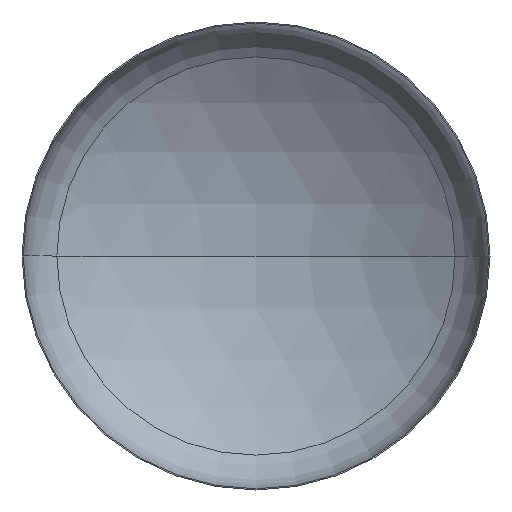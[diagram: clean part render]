
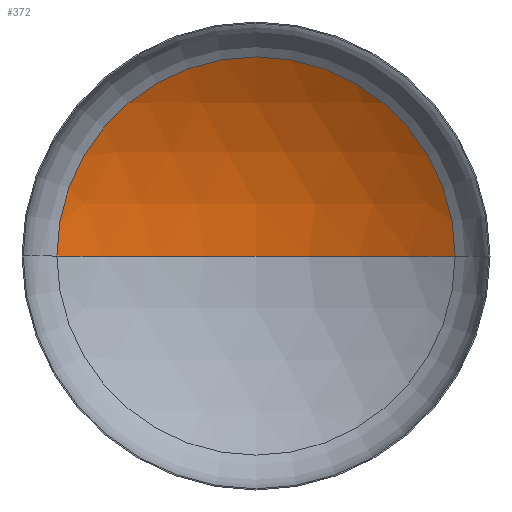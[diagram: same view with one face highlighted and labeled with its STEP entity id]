
A CAD part, front view. The second image highlights one B-rep face of the part: STEP entity #372.
In plain terms, the highlighted spherical face has radius 4000 mm.
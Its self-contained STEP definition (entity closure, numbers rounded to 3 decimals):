
#16 = EDGE_LOOP ( 'NONE', ( #84, #83, #33 ) ) ;
#17 = AXIS2_PLACEMENT_3D ( 'NONE', #409, #177, #179 ) ;
#18 = AXIS2_PLACEMENT_3D ( 'NONE', #411, #336, #159 ) ;
#33 = ORIENTED_EDGE ( 'NONE', *, *, #173, .T. ) ;
#37 = VERTEX_POINT ( 'NONE', #290 ) ;
#47 = VERTEX_POINT ( 'NONE', #295 ) ;
#72 = AXIS2_PLACEMENT_3D ( 'NONE', #189, #207, #210 ) ;
#74 = VERTEX_POINT ( 'NONE', #285 ) ;
#78 = CARTESIAN_POINT ( 'NONE',  ( 0., -2695.21, 0. ) ) ;
#79 = FACE_OUTER_BOUND ( 'NONE', #16, .T. ) ;
#83 = ORIENTED_EDGE ( 'NONE', *, *, #358, .T. ) ;
#84 = ORIENTED_EDGE ( 'NONE', *, *, #361, .F. ) ;
#147 = DIRECTION ( 'NONE',  ( 0., 0., -1. ) ) ;
#159 = DIRECTION ( 'NONE',  ( 1., 0., 0. ) ) ;
#173 = EDGE_CURVE ( 'NONE', #74, #37, #308, .T. ) ;
#177 = DIRECTION ( 'NONE',  ( 0., 0., -1. ) ) ;
#179 = DIRECTION ( 'NONE',  ( -1., 0., 0. ) ) ;
#189 = CARTESIAN_POINT ( 'NONE',  ( 0., 692.047, 0. ) ) ;
#207 = DIRECTION ( 'NONE',  ( 0., -1., 0. ) ) ;
#210 = DIRECTION ( 'NONE',  ( 1., 0., 0. ) ) ;
#213 = CIRCLE ( 'NONE', #18, 4000. ) ;
#285 = CARTESIAN_POINT ( 'NONE',  ( 2127.554, 692.047, 0. ) ) ;
#289 = DIRECTION ( 'NONE',  ( -1., 0., 0. ) ) ;
#290 = CARTESIAN_POINT ( 'NONE',  ( -2127.554, 692.047, 0. ) ) ;
#295 = CARTESIAN_POINT ( 'NONE',  ( 0., 1304.79, 0. ) ) ;
#308 = CIRCLE ( 'NONE', #72, 2127.554 ) ;
#328 = SPHERICAL_SURFACE ( 'NONE', #405, 4000. ) ;
#335 = CIRCLE ( 'NONE', #17, 4000. ) ;
#336 = DIRECTION ( 'NONE',  ( 0., 0., 1. ) ) ;
#358 = EDGE_CURVE ( 'NONE', #47, #74, #335, .T. ) ;
#361 = EDGE_CURVE ( 'NONE', #47, #37, #213, .T. ) ;
#372 = ADVANCED_FACE ( 'NONE', ( #79 ), #328, .F. ) ;
#405 = AXIS2_PLACEMENT_3D ( 'NONE', #78, #147, #289 ) ;
#409 = CARTESIAN_POINT ( 'NONE',  ( 0., -2695.21, 0. ) ) ;
#411 = CARTESIAN_POINT ( 'NONE',  ( 0., -2695.21, 0. ) ) ;
